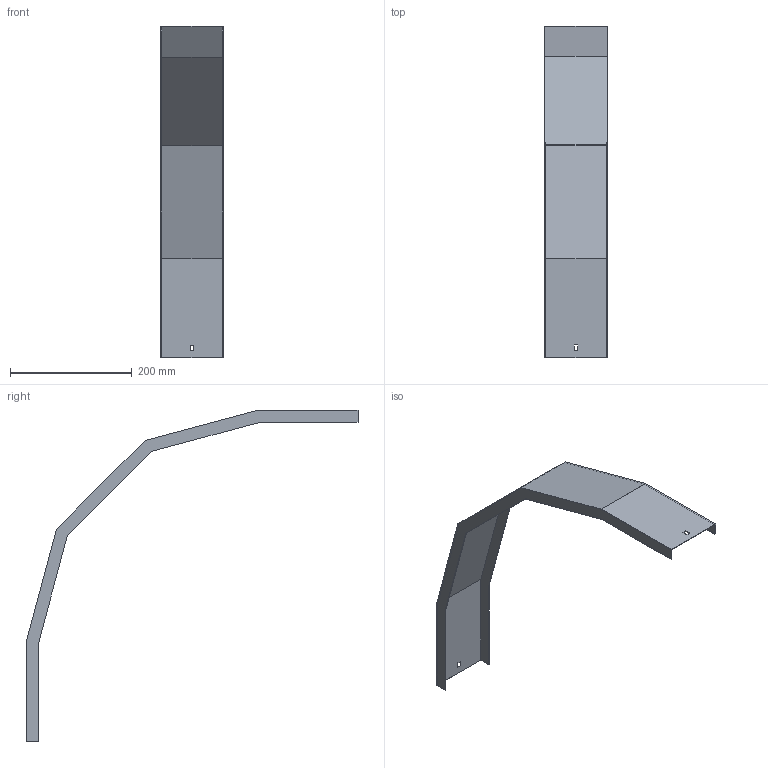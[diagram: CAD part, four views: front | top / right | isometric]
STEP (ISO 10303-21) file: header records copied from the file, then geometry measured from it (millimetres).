
FILE_DESCRIPTION (( 'STEP AP214' ), '1' );
FILE_NAME ('A2_33N3C100.step', '2025-02-21T10:44:16', ( '' ), ( '' ), 'SwSTEP 2.0', 'SolidWorks 2023', '' );
FILE_SCHEMA (( 'AUTOMOTIVE_DESIGN' ));
Length unit declared in the file: millimetre
Products named in the file (1): A2_33N3C100
Bounding box: 103 x 544.46 x 544.46 mm (x, y, z)
Volume: 191248.9 mm3; surface area: 258170.2 mm2
Topology: 1 solids, 1 shells, 34 faces, 96 edges, 64 vertices
Faces by surface type: plane 34
Entity records: 1111 total; most frequent: CARTESIAN_POINT 195, ORIENTED_EDGE 192, DIRECTION 166, VECTOR 96, LINE 96, EDGE_CURVE 96, VERTEX_POINT 64, EDGE_LOOP 38
